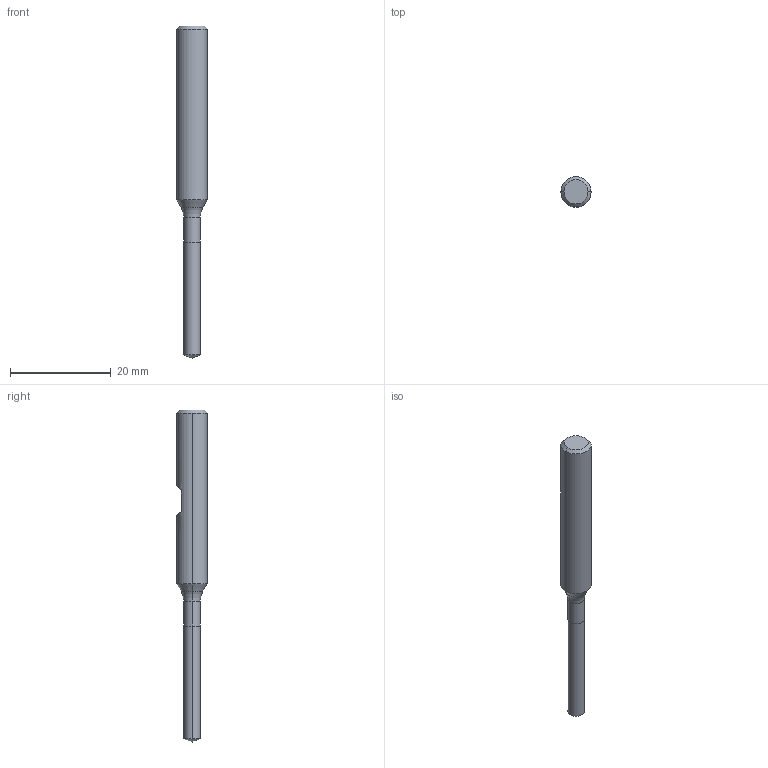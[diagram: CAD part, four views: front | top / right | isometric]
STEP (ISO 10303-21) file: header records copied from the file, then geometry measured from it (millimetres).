
FILE_DESCRIPTION (( 'STEP AP214' ), '1' );
FILE_NAME ('905.033.10_3D-model.step', '2022-02-24T18:10:58', ( '' ), ( '' ), 'SwSTEP 2.0', 'SolidWorks 2020', '' );
FILE_SCHEMA (( 'AUTOMOTIVE_DESIGN' ));
Length unit declared in the file: millimetre
Products named in the file (3): 905.033.10_3D-model; CUT-3D^Baugr136; NOCUT-3D^Baugr136
Assembly tree (2 placements, depth 2):
  905.033.10_3D-model
    CUT-3D^Baugr136
    NOCUT-3D^Baugr136
Bounding box: 6 x 6 x 66 mm (x, y, z)
Volume: 1248.9 mm3; surface area: 1033.9 mm2
Topology: 2 solids, 2 shells, 20 faces, 38 edges, 21 vertices
Faces by surface type: cone 6, cylinder 6, plane 6, torus 2
Entity records: 608 total; most frequent: DIRECTION 108, CARTESIAN_POINT 91, ORIENTED_EDGE 72, AXIS2_PLACEMENT_3D 46, EDGE_CURVE 36, VERTEX_POINT 21, EDGE_LOOP 21, ADVANCED_FACE 20
